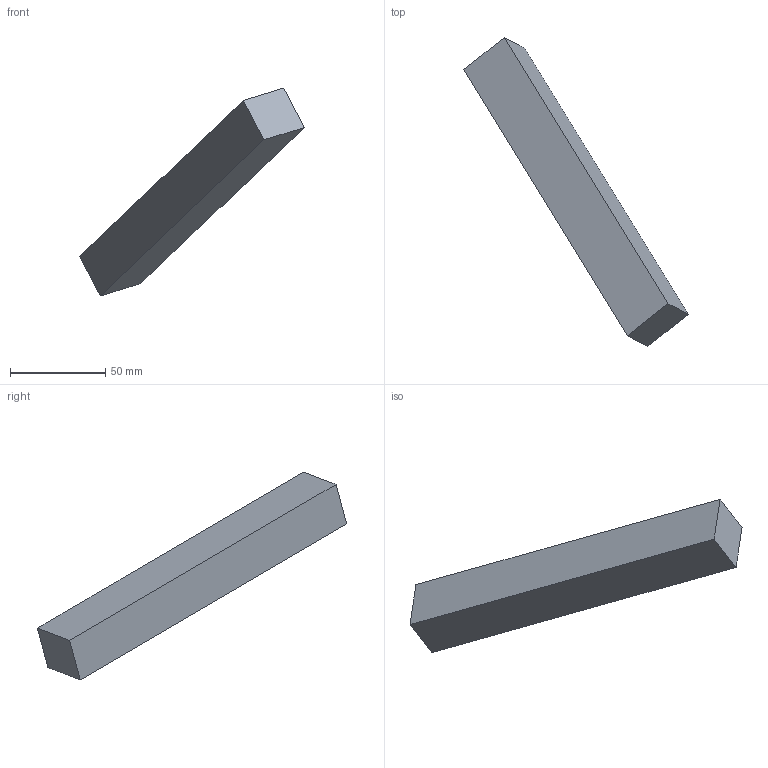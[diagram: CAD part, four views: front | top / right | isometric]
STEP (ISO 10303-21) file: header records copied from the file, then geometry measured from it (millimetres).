
FILE_DESCRIPTION(('Open CASCADE Model'),'2;1');
FILE_NAME('Open CASCADE Shape Model','2026-09-19T23:46:39',('Author'),( 'Open CASCADE'),'Open CASCADE STEP processor 7.9','Open CASCADE 7.9' ,'Unknown');
FILE_SCHEMA(('AUTOMOTIVE_DESIGN { 1 0 10303 214 1 1 1 1 }'));
Length unit declared in the file: millimetre
Products named in the file (1): Open CASCADE STEP translator 7.9 9
Bounding box: 118.06 x 162.48 x 109.23 mm (x, y, z)
Volume: 123399.4 mm3; surface area: 20441.5 mm2
Topology: 1 solids, 1 shells, 6 faces, 12 edges, 8 vertices
Faces by surface type: plane 6
Entity records: 322 total; most frequent: CARTESIAN_POINT 51, DIRECTION 50, LINE 36, VECTOR 36, ORIENTED_EDGE 24, PCURVE 24, DEFINITIONAL_REPRESENTATION 24, EDGE_CURVE 12
